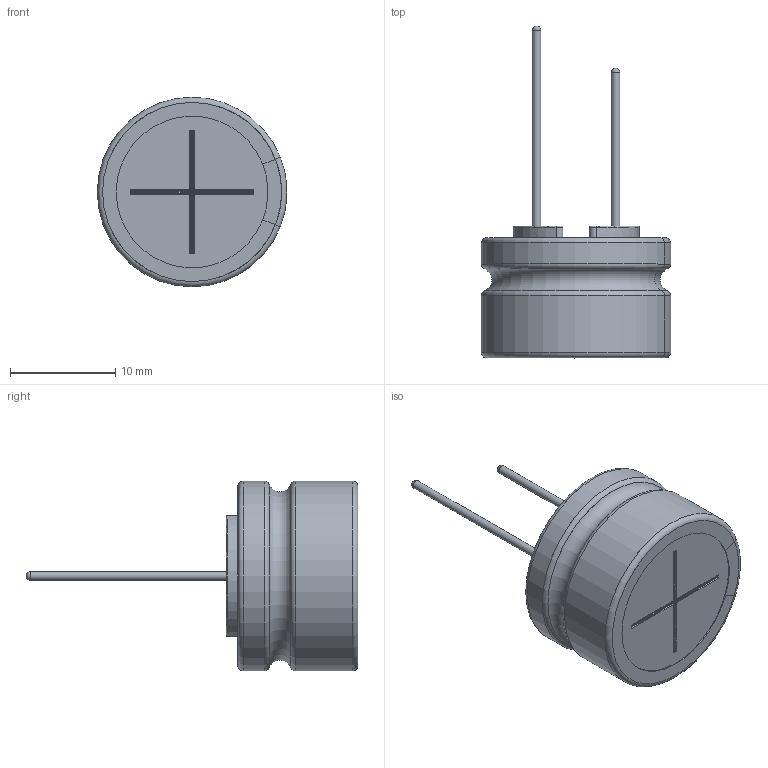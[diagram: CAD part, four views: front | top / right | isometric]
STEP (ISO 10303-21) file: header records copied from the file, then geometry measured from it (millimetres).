
FILE_DESCRIPTION(/* description */ (''),/* implementation_level */ '2;1');
FILE_NAME(/* name */ '18x12.5_Lead.stp',/* time_stamp */ '2017-08-31T16:21:56+09:00',/* author */ (''),/* organization */ (''),/* preprocessor_version */ 'ST-DEVELOPER v16',/* originating_system */ 'SIEMENS PLM Software NX 11.0',/* authorisation */ '');
FILE_SCHEMA (('AUTOMOTIVE_DESIGN { 1 0 10303 214 3 1 1 1 }'));
Length unit declared in the file: millimetre
Products named in the file (1): 18x12.5_Lead_igsstp
Bounding box: 17.97 x 31.5 x 18 mm (x, y, z)
Volume: 2859 mm3; surface area: 2967 mm2
Topology: 3 solids, 3 shells, 132 faces, 328 edges, 205 vertices
Faces by surface type: cylinder 50, torus 35, plane 33, sphere 6, bspline 6, extrusion 2
Full cylindrical faces by diameter (mm): 0.8 x2, 17.8 x2
Entity records: 4908 total; most frequent: CARTESIAN_POINT 1353, DIRECTION 748, ORIENTED_EDGE 624, EDGE_CURVE 312, AXIS2_PLACEMENT_3D 311, VERTEX_POINT 200, CIRCLE 174, EDGE_LOOP 146
